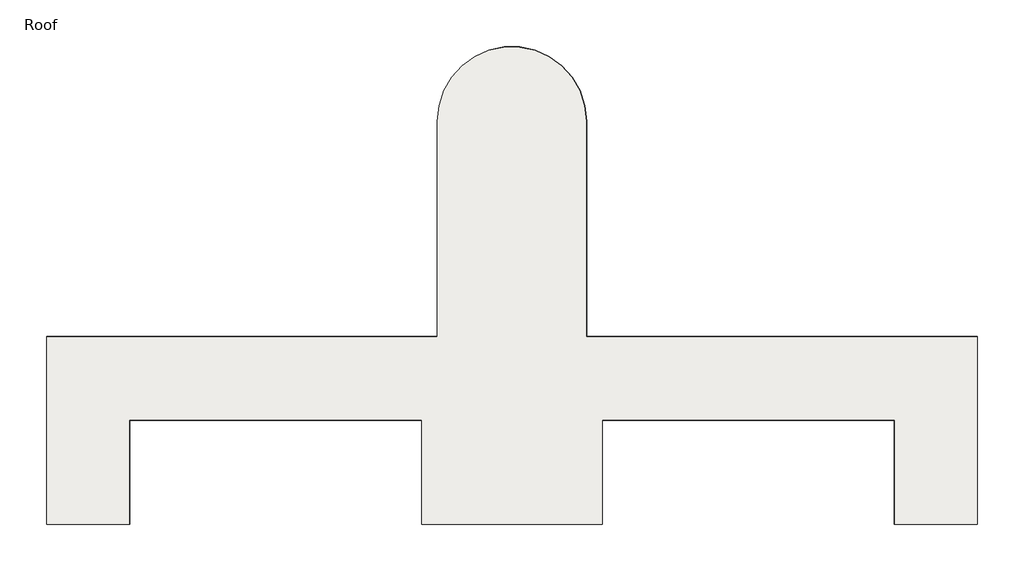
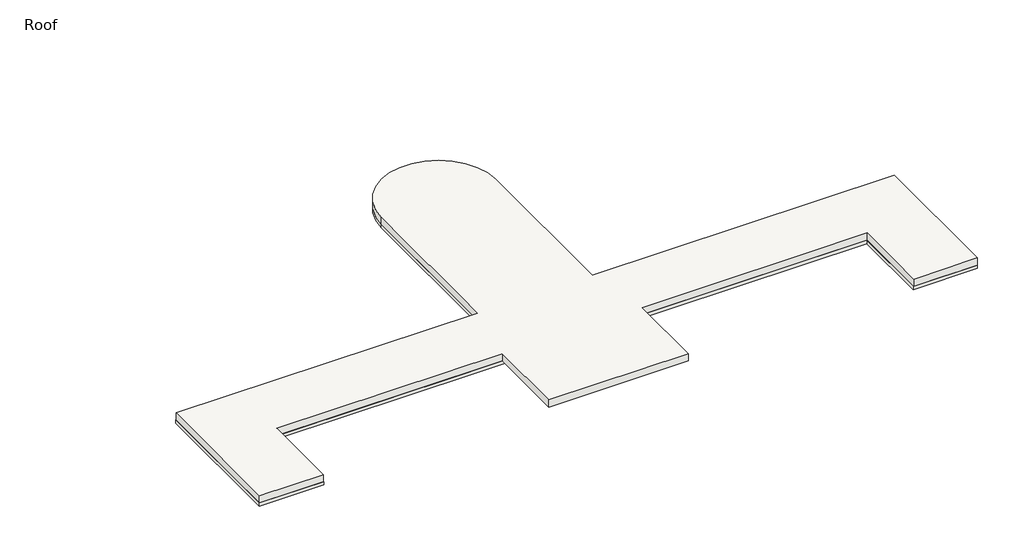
# One storey: 1 roof, 1 slab.
"""IFC4 building model written with IfcOpenShell, lengths in millimetres."""

import ifcopenshell
import ifcopenshell.guid

model = None  # the IFC model being written
_history = None  # IfcOwnerHistory: only IFC2X3 demands one
_inside = {}  # id of a spatial element -> (the spatial element, [elements in it])
_under = {}  # id of a project, library or spatial element -> (it, [spatial elements below it])
_declared = {}  # id of a project -> (the project, [libraries it declares])
_typed = {}  # id of a type object -> (the type object, [elements of that type])
_made_of = {}  # id of a material, layer set ... -> (it, [elements and type objects made of it])


def new_model(schema):
    """Start an empty IFC model of exactly this schema.

    Asked for "IFC4X3", IfcOpenShell would pick the latest addendum, in which some entities
    have other attributes; the version numbers below select the first issue.
    IFC2X3 requires an IfcOwnerHistory on every rooted entity: one is made here for all.
    """
    global model, _history
    if schema == "IFC4X3":
        model = ifcopenshell.file(schema_version=(4, 3, 0, 0))
    else:
        model = ifcopenshell.file(schema=schema)
    _inside.clear()
    _under.clear()
    _declared.clear()
    _typed.clear()
    _made_of.clear()
    _history = None
    if model.schema == "IFC2X3":
        org = make("IfcOrganization", Name="unknown")
        user = make(
            "IfcPersonAndOrganization",
            ThePerson=make("IfcPerson", FamilyName="unknown"),
            TheOrganization=org,
        )
        app = make(
            "IfcApplication",
            ApplicationDeveloper=org,
            Version="unknown",
            ApplicationFullName="unknown",
            ApplicationIdentifier="unknown",
        )
        _history = make(
            "IfcOwnerHistory",
            OwningUser=user,
            OwningApplication=app,
            ChangeAction="ADDED",
            CreationDate=0,
        )
    return model


def make(cls, **values):
    """One entity of the class cls with the attributes given. An attribute that is None is left unset."""
    return model.create_entity(
        cls, **{name: value for name, value in values.items() if value is not None}
    )


def rooted(cls, **values):
    """An entity with a GlobalId (a new one), such as an element, a storey or a relation."""
    return make(cls, GlobalId=ifcopenshell.guid.new(), OwnerHistory=_history, **values)


def si_unit(unit_type, name, prefix=None):
    """IfcSIUnit, for example si_unit("LENGTHUNIT", "METRE", prefix="MILLI")."""
    return make("IfcSIUnit", UnitType=unit_type, Prefix=prefix, Name=name)


def assignment(units):
    """IfcUnitAssignment: the units of a project."""
    return None if units is None else make("IfcUnitAssignment", Units=units)


def point(xyz):
    """IfcCartesianPoint."""
    return None if xyz is None else make("IfcCartesianPoint", Coordinates=xyz)


def direction(xyz):
    """IfcDirection."""
    return None if xyz is None else make("IfcDirection", DirectionRatios=xyz)


def frame(location, z_axis=None, x_axis=None):
    """IfcAxis2Placement3D, a coordinate frame: its origin and axes. An axis left out is left unset."""
    return make(
        "IfcAxis2Placement3D",
        Location=point(location),
        Axis=direction(z_axis),
        RefDirection=direction(x_axis),
    )


def frame_2d(location, x_axis=None):
    """IfcAxis2Placement2D, a coordinate frame in the plane: its origin and x axis."""
    return make(
        "IfcAxis2Placement2D", Location=point(location), RefDirection=direction(x_axis)
    )


def origin():
    """The frame at (0, 0, 0) with its axes left unset."""
    return frame((0.0, 0.0, 0.0))


def place(relative_to, where):
    """IfcLocalPlacement: puts the frame where relative to a parent placement (None: the world)."""
    return make(
        "IfcLocalPlacement", PlacementRelTo=relative_to, RelativePlacement=where
    )


def context(
    kind, dimensions, precision=None, world=None, true_north=None, identifier=None
):
    """IfcGeometricRepresentationContext, for example the 3D "Model" context."""
    return make(
        "IfcGeometricRepresentationContext",
        ContextIdentifier=identifier,
        ContextType=kind,
        CoordinateSpaceDimension=dimensions,
        Precision=precision,
        WorldCoordinateSystem=world,
        TrueNorth=true_north,
    )


def project(units=None, contexts=None):
    """IfcProject with its units and contexts."""
    return rooted(
        "IfcProject",
        Name="project",
        RepresentationContexts=contexts,
        UnitsInContext=assignment(units),
    )


def spatial(cls, under=None, at=None, **own):
    """A site, building, storey or space (cls), placed at a placement, below another one or the project."""
    s = rooted(cls, ObjectPlacement=at, **own)
    if under is not None:
        _under.setdefault(under.id(), (under, []))[1].append(s)
    return s


def polyline(points):
    """IfcPolyline through the points."""
    return make("IfcPolyline", Points=[point(p) for p in points])


def circle_curve(where, radius):
    """IfcCircle in the frame where."""
    return make("IfcCircle", Position=where, Radius=radius)


def trimmed(basis, trim1, trim2, sense, master):
    """IfcTrimmedCurve: the piece of a basis curve between two trims."""
    return make(
        "IfcTrimmedCurve",
        BasisCurve=basis,
        Trim1=trim1,
        Trim2=trim2,
        SenseAgreement=sense,
        MasterRepresentation=master,
    )


def segment(curve, same_sense, transition):
    """IfcCompositeCurveSegment."""
    return make(
        "IfcCompositeCurveSegment",
        Transition=transition,
        SameSense=same_sense,
        ParentCurve=curve,
    )


def composite_curve(segments, self_intersect=None):
    """IfcCompositeCurve: segments joined end to end."""
    return make("IfcCompositeCurve", Segments=segments, SelfIntersect=self_intersect)


def outline(outer, holes=None, kind="AREA"):
    """IfcArbitraryClosedProfileDef: a profile drawn as a closed curve; with holes, ...WithVoids."""
    if holes is None:
        return make("IfcArbitraryClosedProfileDef", ProfileType=kind, OuterCurve=outer)
    return make(
        "IfcArbitraryProfileDefWithVoids",
        ProfileType=kind,
        OuterCurve=outer,
        InnerCurves=holes,
    )


def extrude(swept, where, along, depth):
    """IfcExtrudedAreaSolid: the profile swept, set in the frame where, extruded along a direction by depth."""
    return make(
        "IfcExtrudedAreaSolid",
        SweptArea=swept,
        Position=where,
        ExtrudedDirection=direction(along),
        Depth=depth,
    )


def shape(context_of_items, identifier, shape_type, items):
    """IfcShapeRepresentation: the items that make up one representation, for example the "Body"."""
    return make(
        "IfcShapeRepresentation",
        ContextOfItems=context_of_items,
        RepresentationIdentifier=identifier,
        RepresentationType=shape_type,
        Items=items,
    )


def made_of(thing, what):
    """Note that an element or type object is made of a material, layer set ...; save() writes the relation."""
    if what is not None:
        _made_of.setdefault(what.id(), (what, []))[1].append(thing)
    return thing


def element(
    cls,
    number,
    at=None,
    inside=None,
    cuts=None,
    type_object=None,
    material=None,
    context=None,
    identifier="Body",
    shape_type=None,
    held_by="IfcProductDefinitionShape",
    body=None,
    shapes=None,
    **own,
):
    """One element of the class cls, such as IfcWall. Its Tag is "e" and its number.

    at: its placement. inside: the storey or other place that contains it. cuts: it is an
    opening in that element (IfcRelVoidsElement). A single representation is given by context,
    identifier, shape_type and body (its items); several are given by shapes. held_by: the class
    of the entity that holds the representations. save() writes the other relations.
    """
    e = rooted(cls, Tag="e%d" % number, ObjectPlacement=at, **own)
    if body is not None:
        shapes = [shape(context, identifier, shape_type, body)]
    if shapes is not None:
        e.Representation = make(held_by, Representations=shapes)
    if inside is not None:
        _inside.setdefault(inside.id(), (inside, []))[1].append(e)
    if cuts is not None:
        rooted(
            "IfcRelVoidsElement", RelatingBuildingElement=cuts, RelatedOpeningElement=e
        )
    if type_object is not None:
        _typed.setdefault(type_object.id(), (type_object, []))[1].append(e)
    return made_of(e, material)


def aggregate(whole, parts):
    """IfcRelAggregates: a whole, such as a stair, and the parts it consists of."""
    return rooted("IfcRelAggregates", RelatingObject=whole, RelatedObjects=parts)


def save(model, path):
    """Write the relations noted so far, then the file.

    IfcRelAggregates (storeys below a building ...), IfcRelContainedInSpatialStructure (elements
    in a storey), IfcRelDefinesByType, IfcRelAssociatesMaterial and IfcRelDeclares: one each for
    every whole, place, type object, material and project.
    """
    for whole, parts in _under.values():
        aggregate(whole, parts)
    for where, things in _inside.values():
        rooted(
            "IfcRelContainedInSpatialStructure",
            RelatedElements=things,
            RelatingStructure=where,
        )
    for kind, things in _typed.values():
        rooted("IfcRelDefinesByType", RelatedObjects=things, RelatingType=kind)
    for what, things in _made_of.values():
        rooted("IfcRelAssociatesMaterial", RelatedObjects=things, RelatingMaterial=what)
    for by, libraries in _declared.values():
        rooted("IfcRelDeclares", RelatingContext=by, RelatedDefinitions=libraries)
    model.write(path)


model = new_model("IFC4")

# Units and contexts
model_context = context("Model", 3, world=origin())
ifc_project = project(units=[si_unit("LENGTHUNIT", "METRE", prefix="MILLI")], contexts=[model_context])

# Site, building, storey
site = spatial("IfcSite", under=ifc_project)
building = spatial("IfcBuilding", under=site)
storey = spatial("IfcBuildingStorey", under=building, Name="Roof", Elevation=12192.0)

# Roof
placement = place(None, origin())
element("IfcRoof", 1, ObjectType="Generic - 9\"", at=placement, inside=storey, context=model_context, shape_type="SweptSolid", body=[
    extrude(outline(composite_curve([segment(polyline([(-17118.4024687, 167.7883812), (-17118.4024687, 4539.7633812), (-7987.1024687, 4539.7633812), (-7987.1024687, 9592.7758812)]), True, "CONTINUOUS"), segment(trimmed(circle_curve(frame_2d((-6251.9649687, 9592.7758812)), 1735.1375), [point((-7987.1024687, 9592.7758812))], [point((-4516.8274687, 9592.7758812))], False, "CARTESIAN"), True, "CONTINUOUS"), segment(polyline([(-4516.8274687, 9592.7758812), (-4516.8274687, 4539.7633812), (4627.1725313, 4539.7633812), (4627.1725313, 167.7883812), (2693.5975313, 167.7883812), (2693.5975313, 2606.1883812), (-4135.8274687, 2606.1883812), (-4135.8274687, 167.7883812), (-8355.4024687, 167.7883812), (-8355.4024687, 2606.1883812), (-15184.8274687, 2606.1883812), (-15184.8274687, 167.7883812), (-17118.4024687, 167.7883812)]), True, "CONTINUOUS")], self_intersect=False)), frame((0.0, 0.0, 12192.0), z_axis=(0.0, 0.0, 1.0), x_axis=(1.0, 0.0, 0.0)), (0.0, 0.0, 1.0), 228.6),
])

# Slab
element("IfcSlab", 2, ObjectType="LW Concrete on Metal Deck", at=placement, inside=storey, context=model_context, shape_type="SweptSolid", body=[
    extrude(outline(composite_curve([segment(polyline([(-4504.1274687, 9592.7758812), (-4504.1274687, 4552.4633812), (4627.1725313, 4552.4633812), (4627.1725313, 167.7883812), (2680.8975313, 167.7883812), (2680.8975313, 2593.4883812), (-15172.1274687, 2593.4883812), (-15172.1274687, 167.7883812), (-17118.4024687, 167.7883812), (-17118.4024687, 4552.4633812), (-7987.1024687, 4552.4633812), (-7987.1024687, 9592.7758812)]), True, "CONTINUOUS"), segment(trimmed(circle_curve(frame_2d((-6245.6149687, 9592.7758812)), 1741.4875), [point((-7987.1024687, 9592.7758812))], [point((-4504.1274687, 9592.7758812))], False, "CARTESIAN"), True, "CONTINUOUS")], self_intersect=False), holes=[composite_curve([segment(polyline([(-7974.4024687, 7001.9758812), (-4516.8274687, 7001.9758812), (-4516.8274687, 9592.7758812)]), True, "CONTINUOUS"), segment(trimmed(circle_curve(frame_2d((-6245.6149687, 9592.7758812)), 1728.7875), [point((-4516.8274687, 9592.7758812))], [point((-7974.4024687, 9592.7758812))], True, "CARTESIAN"), True, "CONTINUOUS"), segment(polyline([(-7974.4024687, 9592.7758812), (-7974.4024687, 7001.9758812)]), True, "CONTINUOUS")], self_intersect=False)]), frame((0.0, 0.0, 12087.225), z_axis=(0.0, 0.0, 1.0), x_axis=(1.0, 0.0, 0.0)), (0.0, 0.0, 1.0), 104.775),
])

save(model, "model.ifc")
